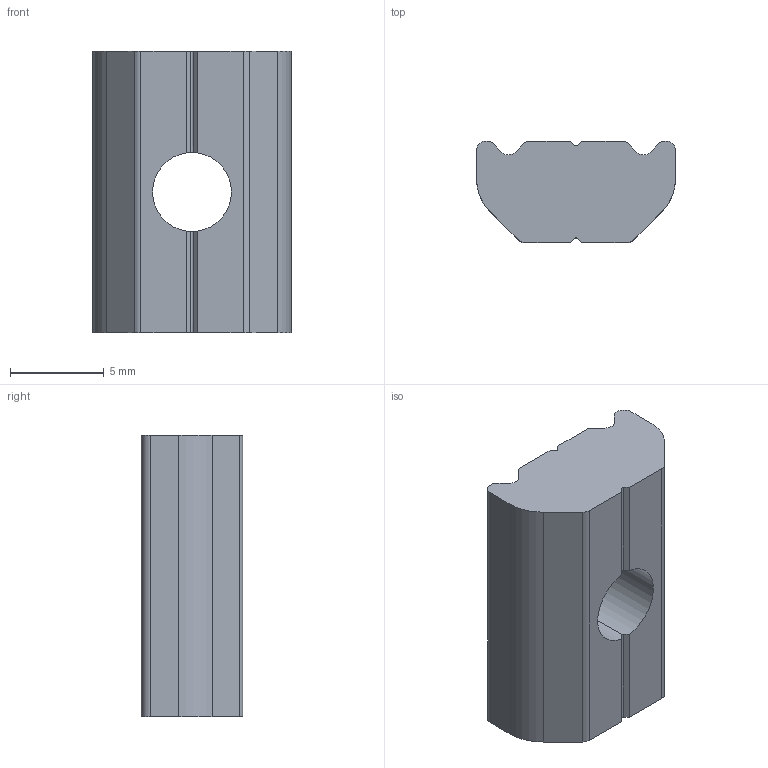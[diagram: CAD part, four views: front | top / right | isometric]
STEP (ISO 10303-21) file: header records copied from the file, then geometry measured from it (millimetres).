
FILE_DESCRIPTION (( 'STEP AP214' ), '1' );
FILE_NAME ('PTN-M5.STEP', '2019-10-30T01:59:14', ( '微软用户' ), ( '微软中国' ), 'SwSTEP 2.0', 'SolidWorks 2016', '' );
FILE_SCHEMA (( 'AUTOMOTIVE_DESIGN' ));
Length unit declared in the file: millimetre
Products named in the file (1): PTN-M5
Bounding box: 10.6 x 5.4 x 15 mm (x, y, z)
Volume: 666.7 mm3; surface area: 590.8 mm2
Topology: 1 solids, 1 shells, 42 faces, 126 edges, 84 vertices
Faces by surface type: plane 24, cylinder 18
Entity records: 1516 total; most frequent: CARTESIAN_POINT 349, ORIENTED_EDGE 252, DIRECTION 228, EDGE_CURVE 126, VERTEX_POINT 84, VECTOR 78, LINE 78, AXIS2_PLACEMENT_3D 75
